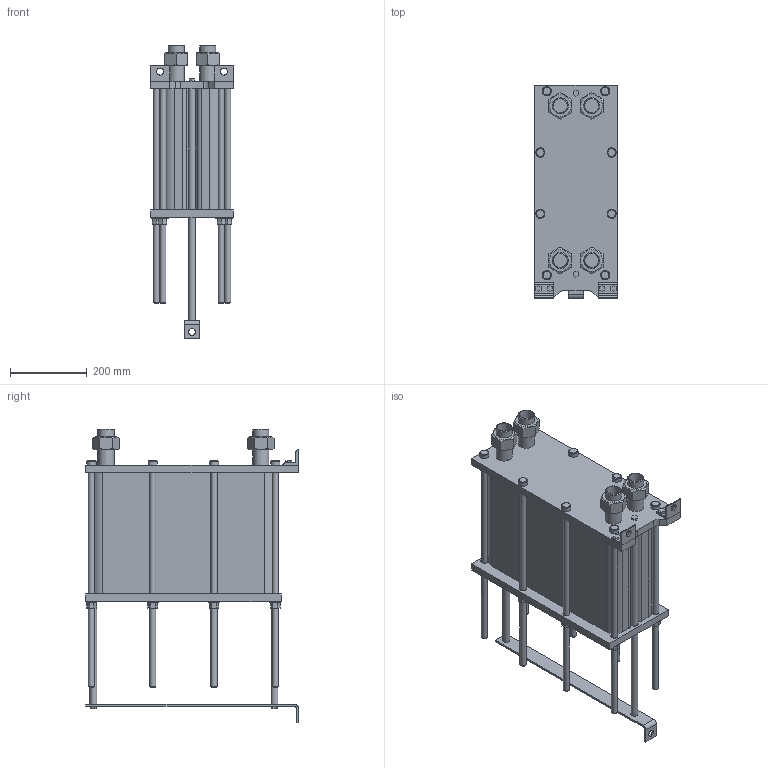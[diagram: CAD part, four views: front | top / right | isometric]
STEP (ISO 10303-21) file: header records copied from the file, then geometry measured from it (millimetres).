
FILE_DESCRIPTION(/* description */ (''),/* implementation_level */ '2;1');
FILE_NAME(/* name */ 'C:\Users\zhuro\Desktop\ENCO\TO\ЭН-004\ЭН-0,5-004-102-1.stp',/* time_stamp */ '2022-06-06T10:52:36+03:00',/* author */ ('zhuro'),/* organization */ (''),/* preprocessor_version */ 'ST-DEVELOPER v18.1',/* originating_system */ 'Autodesk Inventor 2022',/* authorisation */ '');
FILE_SCHEMA (('AUTOMOTIVE_DESIGN { 1 0 10303 214 3 1 1 }'));
Length unit declared in the file: millimetre
Products named in the file (1): ЭН-0,5-004-102-1
Bounding box: 216 x 555 x 766.6 mm (x, y, z)
Volume: 29475344.8 mm3; surface area: 1643319.4 mm2
Topology: 40 solids, 40 shells, 403 faces, 865 edges, 574 vertices
Faces by surface type: plane 272, cylinder 103, cone 28
Full cylindrical faces by diameter (mm): 10 x4, 16 x16, 18 x29, 20 x2, 24 x8, 28 x8, 36.3 x5, 42.3 x9
Entity records: 11137 total; most frequent: CARTESIAN_POINT 1939, DIRECTION 1879, ORIENTED_EDGE 1730, EDGE_CURVE 865, AXIS2_PLACEMENT_3D 658, VERTEX_POINT 574, LINE 563, VECTOR 563
